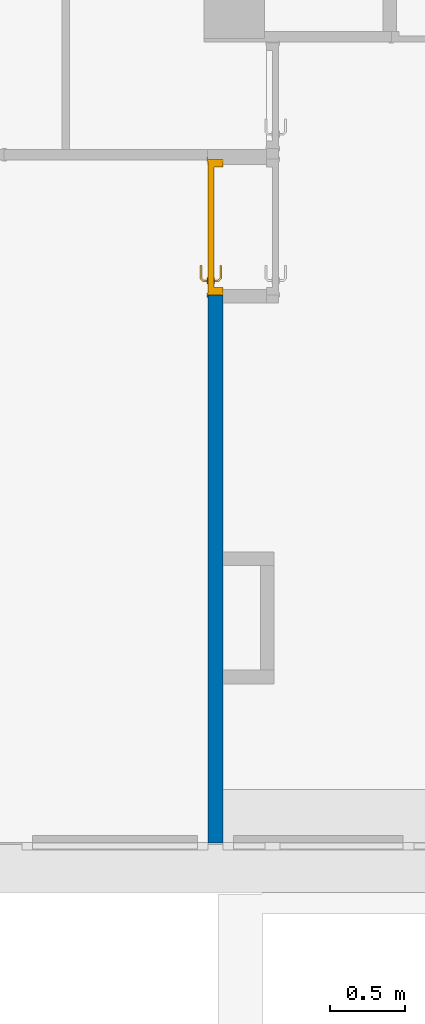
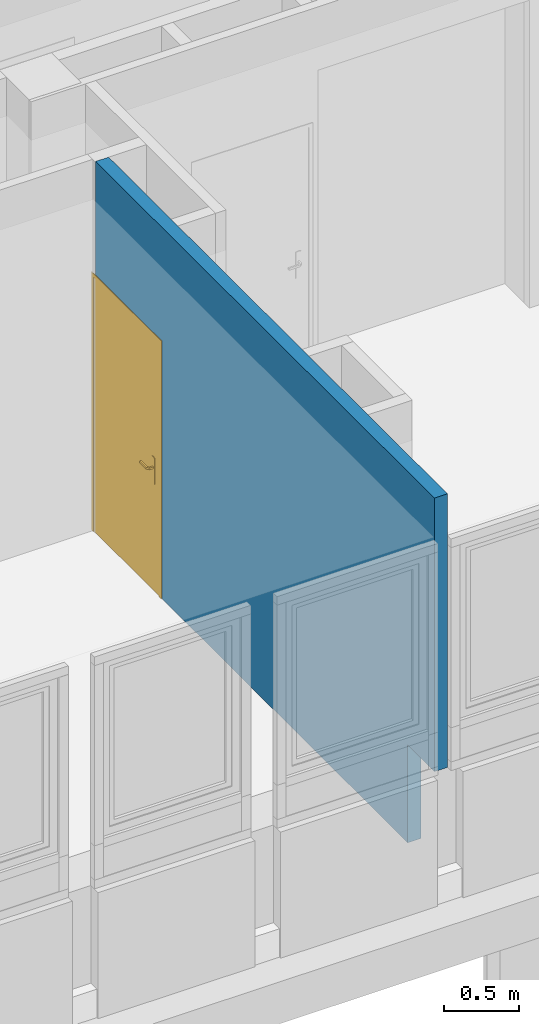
# One storey, part 37 of 97: 1 door, 1 wall, 2 openings.
"""IFC4 building model written with IfcOpenShell, lengths in metres."""

from ifc_helpers import new_model, entity, si_unit, converted_unit, derived_unit, direction, frame, origin, place, context, subcontext, project, spatial, indexed_curve, outline, extrude, polygons, source, transform, mapped, material, material_list, layer, layer_set, constituent, constituent_set, type_object, type_shapes, element, fill, save


model = new_model("IFC4")

# Units and contexts
model_context = context("Model", 3, precision=1e-05, world=origin(), true_north=direction((6.12303176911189e-17, 1.0)))
body_context = subcontext(model_context, "Body", "Model", "MODEL_VIEW")
ifc_project = project(units=[si_unit("LENGTHUNIT", "METRE"), si_unit("AREAUNIT", "SQUARE_METRE"), si_unit("VOLUMEUNIT", "CUBIC_METRE"), converted_unit("PLANEANGLEUNIT", "DEGREE", entity("IfcRatioMeasure", 0.0174532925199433), si_unit("PLANEANGLEUNIT", "RADIAN"), dimensions=[0, 0, 0, 0, 0, 0, 0]), si_unit("MASSUNIT", "GRAM", prefix="KILO"), derived_unit("MASSDENSITYUNIT", [(si_unit("MASSUNIT", "GRAM", prefix="KILO"), 1), (si_unit("LENGTHUNIT", "METRE"), -3)]), derived_unit("MOMENTOFINERTIAUNIT", [(si_unit("LENGTHUNIT", "METRE"), 4)]), si_unit("TIMEUNIT", "SECOND"), si_unit("FREQUENCYUNIT", "HERTZ"), si_unit("THERMODYNAMICTEMPERATUREUNIT", "DEGREE_CELSIUS"), derived_unit("THERMALTRANSMITTANCEUNIT", [(si_unit("MASSUNIT", "GRAM", prefix="KILO"), 1), (si_unit("THERMODYNAMICTEMPERATUREUNIT", "KELVIN"), -1), (si_unit("TIMEUNIT", "SECOND"), -3)]), derived_unit("VOLUMETRICFLOWRATEUNIT", [(si_unit("LENGTHUNIT", "METRE"), 3), (si_unit("TIMEUNIT", "SECOND"), -1)]), si_unit("ELECTRICCURRENTUNIT", "AMPERE"), si_unit("ELECTRICVOLTAGEUNIT", "VOLT"), si_unit("POWERUNIT", "WATT"), si_unit("FORCEUNIT", "NEWTON", prefix="KILO"), si_unit("ILLUMINANCEUNIT", "LUX"), si_unit("LUMINOUSFLUXUNIT", "LUMEN"), si_unit("LUMINOUSINTENSITYUNIT", "CANDELA"), derived_unit("USERDEFINED", [(si_unit("MASSUNIT", "GRAM", prefix="KILO"), -1), (si_unit("LENGTHUNIT", "METRE"), -2), (si_unit("TIMEUNIT", "SECOND"), 3), (si_unit("LUMINOUSFLUXUNIT", "LUMEN"), 1)]), derived_unit("LINEARVELOCITYUNIT", [(si_unit("LENGTHUNIT", "METRE"), 1), (si_unit("TIMEUNIT", "SECOND"), -1)]), si_unit("PRESSUREUNIT", "PASCAL"), derived_unit("USERDEFINED", [(si_unit("LENGTHUNIT", "METRE"), -2), (si_unit("MASSUNIT", "GRAM", prefix="KILO"), 1), (si_unit("TIMEUNIT", "SECOND"), -2)]), derived_unit("LINEARFORCEUNIT", [(si_unit("MASSUNIT", "GRAM", prefix="KILO"), 1), (si_unit("LENGTHUNIT", "METRE"), 1), (si_unit("TIMEUNIT", "SECOND"), -2), (si_unit("LENGTHUNIT", "METRE"), -1)]), derived_unit("PLANARFORCEUNIT", [(si_unit("MASSUNIT", "GRAM", prefix="KILO"), 1), (si_unit("LENGTHUNIT", "METRE"), 1), (si_unit("TIMEUNIT", "SECOND"), -2), (si_unit("LENGTHUNIT", "METRE"), -2)])], contexts=[model_context])

# Site, building, storey
site_placement = place(None, origin())
site = spatial("IfcSite", under=ifc_project, at=site_placement, Name="Default", CompositionType="ELEMENT")
building_placement = place(site_placement, origin())
building = spatial("IfcBuilding", under=site, at=building_placement, Name="HOTEL CONSULAIRE BOULOGNE SUR MER", CompositionType="ELEMENT")
storey_placement = place(building_placement, frame((0.0, 0.0, 3.62152697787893)))
storey = spatial("IfcBuildingStorey", under=building, at=storey_placement, Name="Niveau 1", CompositionType="ELEMENT", Elevation=3.62152697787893)

# Wall, openings, door
ifc_material_1 = material(Name="Mur par défaut", Category="Divers")
ifc_layer = layer(ifc_material_1, 0.1, Name="Mur par défaut", Category="Divers")
ifc_layer_set = layer_set([ifc_layer], Name="Mur de base:Générique - Int. 100 mm")
wall_type = type_object("IfcWallType", Name="Mur de base:Générique - Int. 100 mm", PredefinedType="NOTDEFINED", material=ifc_layer_set)
wall_placement = place(storey_placement, frame((-5.45714306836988, -25.053647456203, 0.0), z_axis=(0.0, 0.0, 1.0), x_axis=(0.0, -1.0, 0.0)))
wall = element("IfcWall", 1, at=wall_placement, inside=storey, type_object=wall_type, material=ifc_layer_set, Name="Mur de base:Générique - Int. 100 mm", ObjectType="Mur de base:Générique - Int. 100 mm", PredefinedType="NOTDEFINED", context=body_context, shape_type="Tessellation", body=[
    polygons([(4.50041964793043, -0.05, 3.01021454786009), (0.0, -0.050000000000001, 3.01021454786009), (0.0, -0.050000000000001, 2.075), (0.865999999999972, -0.0500000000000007, 2.075), (0.865999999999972, -0.0500000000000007, 0.0), (4.14645726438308, -0.0500000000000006, 0.0), (4.14645726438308, -0.0500000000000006, 0.791612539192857), (4.50041964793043, -0.05, 0.791612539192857), (0.0, 0.049999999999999, 3.01021454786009), (0.829656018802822, 0.0499999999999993, 3.01021454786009), (0.919656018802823, 0.0499999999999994, 3.01021454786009), (2.570674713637, 0.0499999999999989, 3.01021454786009), (2.660674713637, 0.0499999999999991, 3.01021454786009), (3.35519786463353, 0.0499999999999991, 3.01021454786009), (3.44519786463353, 0.0499999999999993, 3.01021454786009), (4.50041964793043, 0.05, 3.01021454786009), (4.50041964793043, 0.05, 0.791612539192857), (4.14645726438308, 0.0499999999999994, 0.791612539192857), (4.14645726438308, 0.0499999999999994, 0.0), (0.865999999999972, 0.0499999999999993, 0.0), (0.865999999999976, 0.0499999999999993, 2.075), (0.0, 0.049999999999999, 2.075)], [[[4, 5, 6, 7, 8, 1, 2, 3]], [[13, 14, 15, 16, 17, 18, 19, 20, 21, 22, 9, 10, 11, 12]], [[9, 22, 3, 2]], [[4, 21, 20, 5]], [[4, 3, 22, 21]], [[8, 7, 18, 17]], [[20, 19, 6, 5]], [[1, 16, 15, 14, 13, 12, 11, 10, 9, 2]], [[7, 6, 19, 18]], [[1, 8, 17, 16]]], closed=True),
])
opening_1_placement = place(wall_placement, origin())
element("IfcOpeningElement", 2, at=opening_1_placement, cuts=wall, Name="Mur de base:Générique - Int. 100 mm", ObjectType="Opening", PredefinedType="OPENING", context=body_context, shape_type="SweptSolid", body=[
    extrude(outline(indexed_curve([(-0.176981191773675, -0.413306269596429), (0.176981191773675, -0.413306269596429), (0.176981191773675, 0.413306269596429), (-0.176981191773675, 0.413306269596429), (-0.176981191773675, -0.413306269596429)], self_intersect=False)), frame((4.32343845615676, 0.0500000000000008, 0.378306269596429), z_axis=(0.0, -1.0, 0.0), x_axis=(-1.0, 0.0, 0.0)), (0.0, 0.0, 1.0), 0.1),
])
opening_2_placement = place(wall_placement, frame((0.865999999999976, 0.0499999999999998, 0.0)))
opening_2 = element("IfcOpeningElement", 3, at=opening_2_placement, cuts=wall, Name="Int. Simple:PP (0.83m x 2.04m):1", ObjectType="Opening", PredefinedType="OPENING", context=body_context, shape_type="SweptSolid", body=[
    extrude(outline(indexed_curve([(0.0, 0.9), (0.0, -1.09934449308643e-30), (2.075, -1.09934449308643e-30), (2.075, 0.9), (0.0, 0.9)], self_intersect=False)), frame((0.0, 0.0, 0.0), z_axis=(0.0, -1.0, 0.0), x_axis=(0.0, 0.0, 1.0)), (0.0, 0.0, 1.0), 0.1),
])
ifc_material_2 = material(Name="Finition Peinture - Blanc satiné", Category="Peinture")
ifc_constituent_1 = constituent(ifc_material_2, Name="Finition Peinture - Blanc satiné", Category="Matériaux")
ifc_material_3 = material(Name="Bois - Panneau de porte", Category="Bois")
ifc_constituent_2 = constituent(ifc_material_3, Name="Bois - Panneau de porte", Category="Matériaux")
ifc_material_4 = material(Name="Bois - Cadre de porte", Category="Bois")
ifc_constituent_3 = constituent(ifc_material_4, Name="Bois - Cadre de porte", Category="Matériaux")
ifc_constituent_set = constituent_set(constituents=[ifc_constituent_1, ifc_constituent_2, ifc_constituent_3], Name="MaterialConstituentSet")
ifc_material_list = material_list([ifc_material_4, ifc_material_3, ifc_material_4, ifc_material_2])
door_type = type_object("IfcDoorType", Name="Int. Simple:PP (0.83m x 2.04m)", OperationType="NOTDEFINED", PredefinedType="DOOR", material=ifc_material_list)
shared_shape = source(origin(), body_context, "Body", "Tessellation", [
    polygons([(0.895000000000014, -0.00500000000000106, 0.870000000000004), (0.895000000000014, -0.00500000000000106, 1.08), (0.885352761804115, -0.00500000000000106, 1.08399601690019), (0.875000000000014, -0.00500000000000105, 1.08535898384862), (0.864647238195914, -0.00500000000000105, 1.08399601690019), (0.855000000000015, -0.00500000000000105, 1.08), (0.855000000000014, -0.00500000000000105, 0.870000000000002), (0.864647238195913, -0.00500000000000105, 0.866003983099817), (0.875000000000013, -0.00500000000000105, 0.86464101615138), (0.885352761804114, -0.00500000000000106, 0.866003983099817), (0.895000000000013, -1.06594733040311e-15, 0.870000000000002), (0.885352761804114, -1.06594733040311e-15, 0.866003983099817), (0.875000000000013, -1.05748743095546e-15, 0.86464101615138), (0.864647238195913, -1.05748743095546e-15, 0.866003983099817), (0.855000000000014, -1.04902753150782e-15, 0.870000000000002), (0.855000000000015, -1.04902753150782e-15, 1.08), (0.864647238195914, -1.05748743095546e-15, 1.08399601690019), (0.875000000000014, -1.05748743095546e-15, 1.08535898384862), (0.885352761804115, -1.06594733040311e-15, 1.08399601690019), (0.895000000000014, -1.06594733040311e-15, 1.08)], [[[1, 2, 3, 4, 5, 6, 7, 8, 9, 10]], [[20, 11, 12, 13, 14, 15, 16, 17, 18, 19]], [[10, 12, 11, 1]], [[9, 13, 12, 10]], [[8, 14, 13, 9]], [[8, 7, 15, 14]], [[15, 7, 6, 16]], [[5, 17, 16, 6]], [[4, 18, 17, 5]], [[3, 19, 18, 4]], [[3, 2, 20, 19]], [[11, 20, 2, 1]]], closed=True),
    polygons([(0.855000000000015, 0.0399999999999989, 1.08), (0.855000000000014, 0.0399999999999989, 0.870000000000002), (0.864647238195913, 0.0399999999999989, 0.866003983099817), (0.875000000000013, 0.0399999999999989, 0.86464101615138), (0.885352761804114, 0.0399999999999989, 0.866003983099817), (0.895000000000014, 0.0399999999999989, 0.870000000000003), (0.895000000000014, 0.0399999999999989, 1.08), (0.885352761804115, 0.0399999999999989, 1.08399601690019), (0.875000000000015, 0.0399999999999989, 1.08535898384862), (0.864647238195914, 0.0399999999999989, 1.08399601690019), (0.855000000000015, 0.0449999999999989, 1.08), (0.864647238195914, 0.0449999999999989, 1.08399601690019), (0.875000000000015, 0.0449999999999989, 1.08535898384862), (0.885352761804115, 0.0449999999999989, 1.08399601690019), (0.895000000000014, 0.0449999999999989, 1.08), (0.895000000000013, 0.0449999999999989, 0.870000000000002), (0.885352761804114, 0.0449999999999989, 0.866003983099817), (0.875000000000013, 0.0449999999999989, 0.86464101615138), (0.864647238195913, 0.0449999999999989, 0.866003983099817), (0.855000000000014, 0.0449999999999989, 0.870000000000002)], [[[6, 7, 8, 9, 10, 1, 2, 3, 4, 5]], [[13, 14, 15, 16, 17, 18, 19, 20, 11, 12]], [[10, 12, 11, 1]], [[9, 13, 12, 10]], [[8, 14, 13, 9]], [[8, 7, 15, 14]], [[16, 15, 7, 6]], [[5, 17, 16, 6]], [[4, 18, 17, 5]], [[3, 19, 18, 4]], [[3, 2, 20, 19]], [[20, 2, 1, 11]]], closed=True),
    polygons([(0.881000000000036, -0.00500000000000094, 1.00699999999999), (0.881000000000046, -0.00500000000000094, 0.992999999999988), (0.877025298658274, -0.00500000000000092, 0.99221955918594), (0.872974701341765, -0.0050000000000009, 0.992219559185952), (0.868999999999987, -0.00500000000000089, 0.993000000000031), (0.868999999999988, -0.00500000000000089, 1.007), (0.872974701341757, -0.0050000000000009, 1.00778044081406), (0.877025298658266, -0.00500000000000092, 1.00778044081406), (0.868999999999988, -0.0276803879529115, 1.007), (0.872974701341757, -0.0293267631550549, 1.00778044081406), (0.877025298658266, -0.0310045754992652, 1.00778044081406), (0.881000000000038, -0.0326509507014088, 1.007), (0.868999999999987, -0.0276803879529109, 0.993000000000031), (0.881000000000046, -0.0326509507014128, 0.992999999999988), (0.877025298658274, -0.0310045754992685, 0.99221955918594), (0.872974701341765, -0.0293267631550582, 0.992219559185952), (0.85765222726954, -0.0390281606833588, 1.007), (0.859298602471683, -0.0430028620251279, 1.00778044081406), (0.860976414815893, -0.0470534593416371, 1.00778044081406), (0.862622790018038, -0.051028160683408, 1.007), (0.857652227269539, -0.0390281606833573, 0.993000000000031), (0.862622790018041, -0.0510281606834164, 0.992999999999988), (0.860976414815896, -0.0470534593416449, 0.99221955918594), (0.859298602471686, -0.0430028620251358, 0.992219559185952), (0.774981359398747, -0.0510281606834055, 1.007), (0.774981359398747, -0.0470534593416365, 1.00778044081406), (0.774981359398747, -0.0430028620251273, 1.00778044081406), (0.774981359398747, -0.0390281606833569, 1.00699999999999), (0.774981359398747, -0.0390281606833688, 0.993000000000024), (0.774981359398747, -0.0430028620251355, 0.992219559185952), (0.774981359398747, -0.0470534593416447, 0.99221955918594), (0.774981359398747, -0.0510281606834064, 0.992999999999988), (0.822692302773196, -0.051028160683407, 1.007), (0.81713998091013, -0.045028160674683, 1.0078786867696), (0.816316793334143, -0.039028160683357, 1.007), (0.822692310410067, -0.0510281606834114, 0.992999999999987), (0.817139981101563, -0.0450281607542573, 0.992121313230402), (0.816316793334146, -0.0390281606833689, 0.993000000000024)], [[[7, 8, 1, 2, 3, 4, 5, 6]], [[17, 21, 38, 29, 28, 35]], [[1, 8, 11, 12]], [[8, 7, 10, 18, 19, 11]], [[7, 6, 9, 10]], [[13, 9, 6, 5]], [[25, 26, 27, 28, 29, 30, 31, 32]], [[4, 16, 13, 5]], [[4, 3, 15, 23, 24, 16]], [[2, 14, 15, 3]], [[12, 14, 2, 1]], [[12, 11, 19, 20]], [[10, 9, 17, 18]], [[21, 17, 9, 13]], [[13, 16, 24, 21]], [[15, 14, 22, 23]], [[20, 22, 14, 12]], [[34, 26, 33]], [[33, 26, 25]], [[33, 20, 19]], [[18, 35, 34]], [[35, 18, 17]], [[28, 27, 35]], [[34, 27, 26]], [[34, 35, 27]], [[34, 33, 19]], [[18, 34, 19]], [[37, 30, 38]], [[31, 37, 36]], [[24, 38, 21]], [[30, 29, 38]], [[31, 36, 32]], [[36, 23, 22]], [[37, 23, 36]], [[37, 24, 23]], [[37, 38, 24]], [[30, 37, 31]], [[22, 20, 33, 25, 32, 36]]], closed=True),
    polygons([(0.868999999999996, 0.0449999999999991, 0.993000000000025), (0.872974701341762, 0.0449999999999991, 0.992219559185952), (0.877025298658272, 0.0449999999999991, 0.99221955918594), (0.881000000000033, 0.044999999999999, 0.992999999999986), (0.881000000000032, 0.044999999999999, 1.007), (0.877025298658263, 0.0449999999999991, 1.00778044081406), (0.872974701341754, 0.0449999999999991, 1.00778044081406), (0.868999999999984, 0.0449999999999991, 1.007), (0.868999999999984, 0.067485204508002, 1.007), (0.868999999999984, 0.0674852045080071, 0.993000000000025), (0.881000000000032, 0.0724557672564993, 1.007), (0.877025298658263, 0.070809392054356, 1.00778044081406), (0.872974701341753, 0.0691315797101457, 1.00778044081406), (0.881000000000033, 0.0724557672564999, 0.992999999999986), (0.872974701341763, 0.0691315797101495, 0.992219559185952), (0.877025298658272, 0.0708093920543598, 0.99221955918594), (0.857514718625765, 0.0789704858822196, 1.007), (0.857514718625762, 0.0789704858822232, 0.993000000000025), (0.862485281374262, 0.0909704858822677, 1.007), (0.860838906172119, 0.0869957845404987, 1.00778044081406), (0.859161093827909, 0.0829451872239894, 1.00778044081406), (0.862485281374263, 0.0909704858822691, 0.992999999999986), (0.859161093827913, 0.0829451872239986, 0.992219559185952), (0.860838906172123, 0.0869957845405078, 0.99221955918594), (0.77495421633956, 0.0789704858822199, 0.993000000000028), (0.77495421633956, 0.0789704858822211, 1.007), (0.77495421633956, 0.0829451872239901, 1.00778044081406), (0.77495421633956, 0.0869957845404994, 1.00778044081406), (0.77495421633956, 0.0909704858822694, 1.007), (0.77495421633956, 0.0909704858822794, 0.992999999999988), (0.77495421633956, 0.086995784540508, 0.99221955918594), (0.77495421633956, 0.0829451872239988, 0.992219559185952), (0.822554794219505, 0.0909704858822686, 1.007), (0.817057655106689, 0.0849704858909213, 1.0078786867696), (0.816234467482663, 0.0789704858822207, 1.007), (0.822554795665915, 0.0909704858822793, 0.992999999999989), (0.817057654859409, 0.0849704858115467, 0.992121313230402), (0.816234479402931, 0.0789704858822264, 0.993000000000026)], [[[2, 3, 4, 5, 6, 7, 8, 1]], [[18, 17, 35, 26, 25, 38]], [[9, 10, 1, 8]], [[27, 28, 29, 30, 31, 32, 25, 26]], [[7, 13, 9, 8]], [[7, 6, 12, 20, 21, 13]], [[5, 11, 12, 6]], [[11, 5, 4, 14]], [[4, 3, 16, 14]], [[3, 2, 15, 23, 24, 16]], [[2, 1, 10, 15]], [[17, 18, 10, 9]], [[9, 13, 21, 17]], [[11, 19, 20, 12]], [[22, 19, 11, 14]], [[14, 16, 24, 22]], [[15, 10, 18, 23]], [[34, 27, 35]], [[28, 34, 33]], [[21, 35, 17]], [[27, 26, 35]], [[28, 33, 29]], [[33, 20, 19]], [[34, 20, 33]], [[34, 21, 20]], [[34, 35, 21]], [[27, 34, 28]], [[19, 22, 36, 30, 29, 33]], [[37, 31, 36]], [[36, 31, 30]], [[36, 22, 24]], [[23, 38, 37]], [[38, 23, 18]], [[25, 32, 38]], [[37, 32, 31]], [[37, 38, 32]], [[37, 36, 24]], [[23, 37, 24]]], closed=True),
    polygons([(0.935000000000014, 0.04, 2.04), (0.935000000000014, 0.04, 0.0), (0.105000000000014, 0.04, 0.0), (0.105000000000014, 0.04, 2.04), (0.935000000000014, 3.38395977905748e-17, 2.04), (0.105000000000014, 3.38395977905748e-17, 2.04), (0.105000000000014, 3.38395977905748e-17, 0.0), (0.935000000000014, 3.38395977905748e-17, 0.0)], [[[3, 4, 1, 2]], [[5, 6, 7, 8]], [[5, 1, 4, 6]], [[6, 4, 3, 7]], [[8, 7, 3, 2]], [[8, 2, 1, 5]]], closed=True),
    polygons([(0.970000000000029, 0.0, 0.0), (0.935000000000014, 0.0, 0.0), (0.935000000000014, 0.040000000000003, 0.0), (0.920000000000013, 0.040000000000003, 0.0), (0.920000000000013, 0.100000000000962, 0.0), (0.970000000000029, 0.100000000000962, 0.0), (0.970000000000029, 0.100000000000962, 2.07500000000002), (0.970000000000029, 0.0, 2.07500000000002), (0.920000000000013, 0.100000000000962, 2.025), (0.120000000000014, 0.100000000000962, 2.025), (0.120000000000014, 0.100000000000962, 6.02669015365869e-24), (0.0699999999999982, 0.100000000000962, 9.23443718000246e-25), (0.0699999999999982, 0.100000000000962, 2.07500000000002), (0.920000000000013, 0.040000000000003, 2.025), (0.935000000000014, 0.040000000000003, 2.04), (0.105000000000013, 0.040000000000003, 2.04), (0.105000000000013, 0.040000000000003, 1.51399294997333e-24), (0.120000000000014, 0.040000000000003, 1.99209609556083e-25), (0.120000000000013, 0.040000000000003, 2.025), (0.935000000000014, 0.0, 2.04), (0.0699999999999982, 0.0, 2.07500000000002), (0.0699999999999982, 0.0, 1.81925185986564e-24), (0.105000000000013, 0.0, 3.40121094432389e-24), (0.105000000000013, 0.0, 2.04)], [[[5, 6, 1, 2, 3, 4]], [[17, 23, 22, 12, 11, 18]], [[19, 10, 9, 14]], [[24, 16, 15, 20]], [[7, 8, 1, 6]], [[18, 11, 10, 19]], [[17, 16, 24, 23]], [[9, 10, 11, 12, 13, 7, 6, 5]], [[14, 9, 5, 4]], [[15, 3, 2, 20]], [[12, 22, 21, 13]], [[19, 14, 4, 3, 15, 16, 17, 18]], [[24, 20, 2, 1, 8, 21, 22, 23]], [[13, 21, 8, 7]]], closed=True),
    polygons([(0.955000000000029, 0.100000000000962, 1.35358391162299e-16), (0.955000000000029, 0.105000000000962, 1.35358391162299e-16), (0.985000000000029, 0.105000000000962, 1.35358391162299e-16), (0.985000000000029, 0.100000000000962, 1.35358391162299e-16), (0.985000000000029, 0.100000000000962, 2.09000000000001), (0.0550000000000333, 0.100000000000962, 2.09000000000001), (0.0550000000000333, 0.100000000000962, -5.44393448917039e-24), (0.0850000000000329, 0.100000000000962, 5.09144898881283e-24), (0.0850000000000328, 0.100000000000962, 2.06000000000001), (0.955000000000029, 0.100000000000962, 2.06000000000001), (0.985000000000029, 0.105000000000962, 2.09000000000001), (0.955000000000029, 0.105000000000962, 2.06000000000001), (0.0850000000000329, 0.105000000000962, 2.06000000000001), (0.0850000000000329, 0.105000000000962, -1.89153776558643e-24), (0.055000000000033, 0.105000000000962, 5.03766794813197e-24), (0.0550000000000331, 0.105000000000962, 2.09000000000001)], [[[2, 3, 4, 1]], [[7, 15, 14, 8]], [[13, 12, 10, 9]], [[9, 10, 1, 4, 5, 6, 7, 8]], [[11, 5, 4, 3]], [[8, 14, 13, 9]], [[12, 13, 14, 15, 16, 11, 3, 2]], [[10, 12, 2, 1]], [[15, 7, 6, 16]], [[16, 6, 5, 11]]], closed=True),
    polygons([(0.955000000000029, -0.005, 1.35358391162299e-16), (0.955000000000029, 0.0, 1.35358391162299e-16), (0.985000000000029, 0.0, 1.35358391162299e-16), (0.985000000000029, -0.005, 1.35358391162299e-16), (0.0850000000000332, -0.005, -1.35358391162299e-16), (0.0550000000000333, -0.005, -1.35358391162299e-16), (0.055000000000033, 0.0, -1.35358391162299e-16), (0.0850000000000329, 0.0, -1.35358391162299e-16), (0.985000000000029, -0.005, 2.09000000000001), (0.0550000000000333, -0.005, 2.09000000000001), (0.0850000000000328, -0.005, 2.06000000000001), (0.955000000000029, -0.005, 2.06000000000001), (0.985000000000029, 0.0, 2.09000000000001), (0.955000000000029, 0.0, 2.06000000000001), (0.0850000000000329, 0.0, 2.06000000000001), (0.0550000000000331, 0.0, 2.09000000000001)], [[[2, 3, 4, 1]], [[6, 7, 8, 5]], [[11, 15, 14, 12]], [[11, 12, 1, 4, 9, 10, 6, 5]], [[13, 9, 4, 3]], [[5, 8, 15, 11]], [[14, 15, 8, 7, 16, 13, 3, 2]], [[12, 14, 2, 1]], [[7, 6, 10, 16]], [[16, 10, 9, 13]]], closed=True),
])
type_shapes(door_type, [shared_shape])
door_placement = place(opening_2_placement, frame((-0.970000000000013, -0.0999999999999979, 0.0)))
door = element("IfcDoor", 4, at=door_placement, inside=storey, type_object=door_type, material=ifc_constituent_set, Name="Int. Simple:PP (0.83m x 2.04m)", ObjectType="Int. Simple:PP (0.83m x 2.04m)", OperationType="NOTDEFINED", OverallHeight=2.075, OverallWidth=0.899999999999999, PredefinedType="DOOR", context=body_context, shape_type="MappedRepresentation", body=[
    mapped(shared_shape, transform((0.0, 0.0, 0.0), scale=1.0)),
])
fill(opening_2, door)

save(model, "model.ifc")
